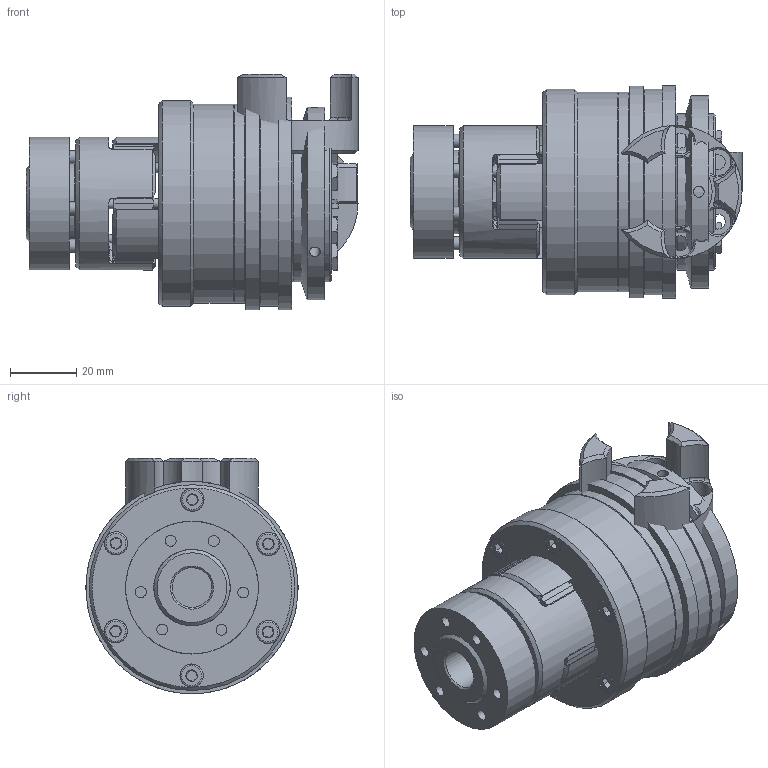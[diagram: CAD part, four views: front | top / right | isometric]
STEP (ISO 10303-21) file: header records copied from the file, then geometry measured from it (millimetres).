
FILE_DESCRIPTION( ( 'Unknown' ), '1' );
FILE_NAME( 'C:/Dokumente und Einstellungen/Sven/Desktop/hp kbk/E-AA/KBK EAA-19-96.stp', 'Unknown', ( 'Unknown' ), ( 'Unknown' ), 'XStep 1.0', 'Unknown', ' ' );
FILE_SCHEMA( ( 'automotive_design' ) );
Length unit declared in the file: millimetre
Products named in the file (17): Assem1; Assem2; ball_bearing_-_6005_0_01_0; ball_bearing_-_6005_0_02_0; ball_bearing_-_6005_0_03_0; Stellring 30_0; Druckring 30_0; a_25_0; Flansch L30_0; ISO EN DIN 4762_M4x16_0; KBE3-19_Druckring_0; Elastomerflansch 19_0; Zahnkranz_19_Standard_0; KBE 3 - 19_Nabe; L-A-30 Grundkörper_0; Druckring L-A-30_0; din_en_24017_m5x16_0
Bounding box: 100 x 64 x 71 mm (x, y, z)
Volume: 301703.8 mm3; surface area: 165557.2 mm2
Topology: 49 solids, 49 shells, 1266 faces, 2782 edges, 1737 vertices
Faces by surface type: plane 463, cylinder 354, cone 309, torus 92, bspline 48
Full cylindrical faces by diameter (mm): 2 x4, 3 x12, 3.242 x18, 3.3 x18, 3.5 x13, 4 x26, 4.134 x12, 4.2 x12, 4.5 x12, 5 x7, 5.5 x12, 6.88 x7, 7 x25, 8 x14, 12 x4, 18 x4, 22 x2, 23.9 x2, 24.7 x2, 25 x7, 25.1 x2, 32 x6, 34 x2, 38 x4, 40 x6, 40.3 x6, 46 x2, 47 x7, 52 x2, 58 x2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
Entity records: 12976 total; most frequent: CARTESIAN_POINT 3283, DIRECTION 2038, ORIENTED_EDGE 1626, AXIS2_PLACEMENT_3D 934, EDGE_CURVE 813, EDGE_LOOP 694, VERTEX_POINT 589, FACE_OUTER_BOUND 547
